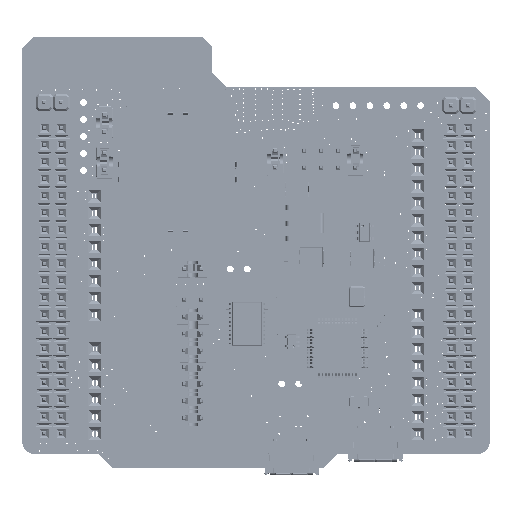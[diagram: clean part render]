
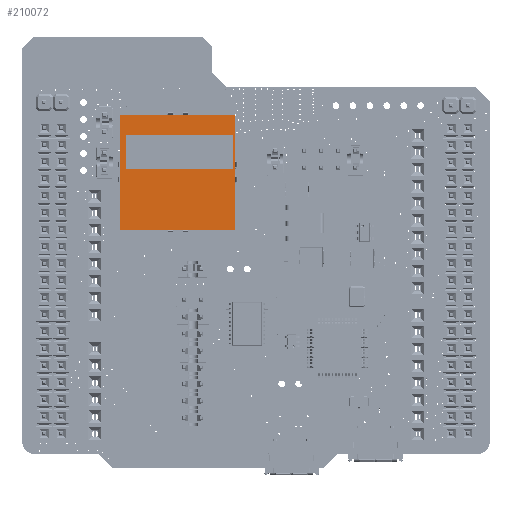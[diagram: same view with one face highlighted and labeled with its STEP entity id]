
A CAD part, top view. The second image highlights one B-rep face of the part: STEP entity #210072.
In plain terms, the highlighted planar face has unit normal (0, 0, 1) as drawn and (0, 0, -1) by its records, which use the part's own axes.
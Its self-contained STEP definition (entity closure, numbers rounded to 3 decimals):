
#209906 = EDGE_CURVE('',#209907,#209909,#209911,.T.);
#209907 = VERTEX_POINT('',#209908);
#209908 = CARTESIAN_POINT('',(0.,17.2,0.));
#209909 = VERTEX_POINT('',#209910);
#209910 = CARTESIAN_POINT('',(0.,0.,0.));
#209911 = LINE('',#209912,#209913);
#209912 = CARTESIAN_POINT('',(0.,0.,0.));
#209913 = VECTOR('',#209914,1.);
#209914 = DIRECTION('',(0.,-1.,0.));
#209946 = EDGE_CURVE('',#209909,#209947,#209949,.T.);
#209947 = VERTEX_POINT('',#209948);
#209948 = CARTESIAN_POINT('',(17.2,0.,0.));
#209949 = LINE('',#209950,#209951);
#209950 = CARTESIAN_POINT('',(0.,0.,0.));
#209951 = VECTOR('',#209952,1.);
#209952 = DIRECTION('',(1.,0.,0.));
#209977 = EDGE_CURVE('',#209947,#209978,#209980,.T.);
#209978 = VERTEX_POINT('',#209979);
#209979 = CARTESIAN_POINT('',(17.2,17.2,0.));
#209980 = LINE('',#209981,#209982);
#209981 = CARTESIAN_POINT('',(17.2,0.,0.));
#209982 = VECTOR('',#209983,1.);
#209983 = DIRECTION('',(0.,1.,0.));
#210008 = EDGE_CURVE('',#209978,#209907,#210009,.T.);
#210009 = LINE('',#210010,#210011);
#210010 = CARTESIAN_POINT('',(0.,17.2,0.));
#210011 = VECTOR('',#210012,1.);
#210012 = DIRECTION('',(-1.,0.,0.));
#210072 = ADVANCED_FACE('',(#210073),#210079,.T.);
#210073 = FACE_BOUND('',#210074,.T.);
#210074 = EDGE_LOOP('',(#210075,#210076,#210077,#210078));
#210075 = ORIENTED_EDGE('',*,*,#209906,.F.);
#210076 = ORIENTED_EDGE('',*,*,#210008,.F.);
#210077 = ORIENTED_EDGE('',*,*,#209977,.F.);
#210078 = ORIENTED_EDGE('',*,*,#209946,.F.);
#210079 = PLANE('',#210080);
#210080 = AXIS2_PLACEMENT_3D('',#210081,#210082,#210083);
#210081 = CARTESIAN_POINT('',(0.,17.2,0.));
#210082 = DIRECTION('',(0.,0.,-1.));
#210083 = DIRECTION('',(-1.,0.,0.));
